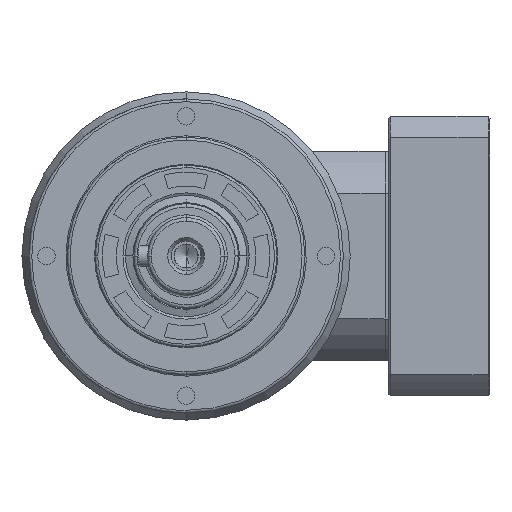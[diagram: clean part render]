
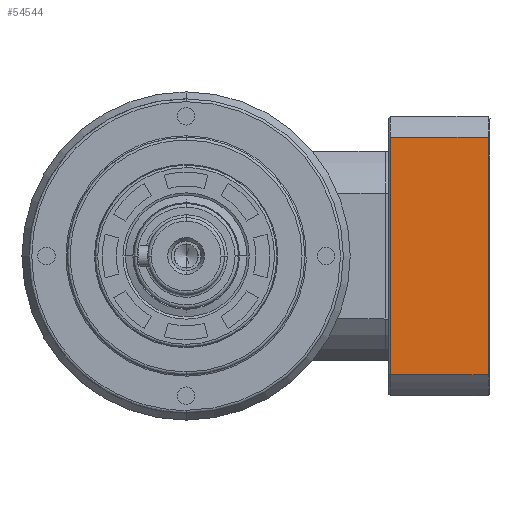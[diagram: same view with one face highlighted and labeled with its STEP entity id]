
A CAD part, left-side view. The second image highlights one B-rep face of the part: STEP entity #54544.
In plain terms, the highlighted planar face has unit normal (-1, 0, 0.001).
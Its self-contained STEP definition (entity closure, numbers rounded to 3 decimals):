
#2545 = VERTEX_POINT ( 'NONE', #8533 ) ;
#6225 = DIRECTION ( 'NONE',  ( 0.001, -0.001, 1. ) ) ;
#7914 = DIRECTION ( 'NONE',  ( -0.001, 0.001, -1. ) ) ;
#8533 = CARTESIAN_POINT ( 'NONE',  ( 40.513, -97.788, 151.994 ) ) ;
#9077 = ORIENTED_EDGE ( 'NONE', *, *, #27715, .T. ) ;
#9688 = VERTEX_POINT ( 'NONE', #50993 ) ;
#10025 = EDGE_CURVE ( 'NONE', #2545, #9688, #74505, .T. ) ;
#10679 = PLANE ( 'NONE',  #17123 ) ;
#12604 = DIRECTION ( 'NONE',  ( 0., 1., 0. ) ) ;
#13726 = CARTESIAN_POINT ( 'NONE',  ( 40.513, -125.956, 152.403 ) ) ;
#14872 = VERTEX_POINT ( 'NONE', #68486 ) ;
#16818 = CARTESIAN_POINT ( 'NONE',  ( 40.479, -97.754, 83.987 ) ) ;
#17123 = AXIS2_PLACEMENT_3D ( 'NONE', #13726, #71862, #12604 ) ;
#18236 = ORIENTED_EDGE ( 'NONE', *, *, #42136, .T. ) ;
#18708 = VECTOR ( 'NONE', #7914, 1000. ) ;
#22300 = FACE_OUTER_BOUND ( 'NONE', #37514, .T. ) ;
#22478 = CARTESIAN_POINT ( 'NONE',  ( 40.479, -125.754, 83.973 ) ) ;
#27715 = EDGE_CURVE ( 'NONE', #57436, #14872, #51928, .T. ) ;
#28888 = VECTOR ( 'NONE', #64074, 1000. ) ;
#31783 = EDGE_CURVE ( 'NONE', #9688, #57436, #63696, .T. ) ;
#37514 = EDGE_LOOP ( 'NONE', ( #9077, #18236, #55099, #64947 ) ) ;
#42136 = EDGE_CURVE ( 'NONE', #14872, #2545, #44749, .T. ) ;
#44749 = LINE ( 'NONE', #64081, #55831 ) ;
#50993 = CARTESIAN_POINT ( 'NONE',  ( 40.479, -97.754, 83.987 ) ) ;
#51635 = CARTESIAN_POINT ( 'NONE',  ( 40.479, -125.754, 83.973 ) ) ;
#51928 = LINE ( 'NONE', #22478, #53379 ) ;
#53379 = VECTOR ( 'NONE', #6225, 1000. ) ;
#54544 = ADVANCED_FACE ( 'NONE', ( #22300 ), #10679, .T. ) ;
#55099 = ORIENTED_EDGE ( 'NONE', *, *, #10025, .T. ) ;
#55831 = VECTOR ( 'NONE', #56742, 1000. ) ;
#56742 = DIRECTION ( 'NONE',  ( 0., 1., 0.001 ) ) ;
#57436 = VERTEX_POINT ( 'NONE', #51635 ) ;
#60989 = CARTESIAN_POINT ( 'NONE',  ( 40.513, -97.788, 151.994 ) ) ;
#63696 = LINE ( 'NONE', #16818, #28888 ) ;
#64074 = DIRECTION ( 'NONE',  ( 0., -1., -0.001 ) ) ;
#64081 = CARTESIAN_POINT ( 'NONE',  ( 40.513, -111.788, 151.987 ) ) ;
#64947 = ORIENTED_EDGE ( 'NONE', *, *, #31783, .T. ) ;
#68486 = CARTESIAN_POINT ( 'NONE',  ( 40.513, -125.788, 151.98 ) ) ;
#71862 = DIRECTION ( 'NONE',  ( -1., 0., 0.001 ) ) ;
#74505 = LINE ( 'NONE', #60989, #18708 ) ;
